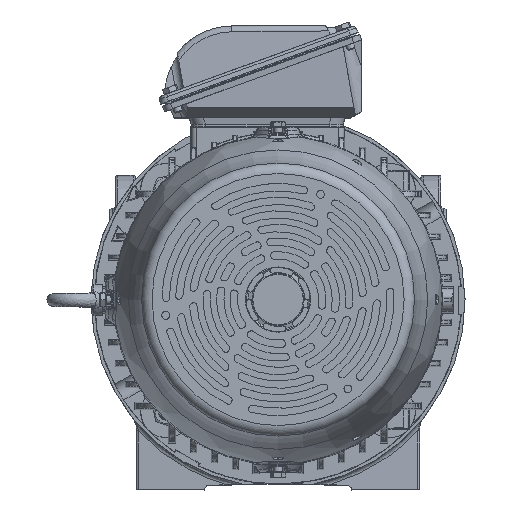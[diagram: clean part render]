
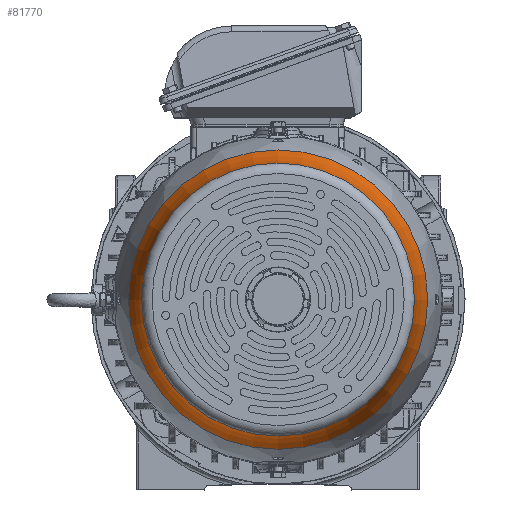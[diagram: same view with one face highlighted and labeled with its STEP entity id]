
A CAD part, top view. The second image highlights one B-rep face of the part: STEP entity #81770.
In plain terms, the highlighted toroidal (fillet/blend) face has major radius 308.616 mm and minor radius 180 mm.
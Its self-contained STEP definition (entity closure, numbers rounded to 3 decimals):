
#143=TOROIDAL_SURFACE('',#89071,308.617,180.);
#10907=FACE_OUTER_BOUND('',#15729,.T.);
#15729=EDGE_LOOP('',(#68542,#68543,#68544,#68545,#68546,#68547));
#19954=CIRCLE('',#89068,129.927);
#19955=CIRCLE('',#89069,129.927);
#19957=CIRCLE('',#89072,142.487);
#19958=CIRCLE('',#89073,142.487);
#19959=CIRCLE('',#89074,180.);
#36640=VERTEX_POINT('',#177621);
#36641=VERTEX_POINT('',#177622);
#36642=VERTEX_POINT('',#177627);
#36643=VERTEX_POINT('',#177628);
#47637=EDGE_CURVE('',#36640,#36641,#19954,.T.);
#47638=EDGE_CURVE('',#36641,#36640,#19955,.T.);
#47640=EDGE_CURVE('',#36642,#36643,#19957,.T.);
#47641=EDGE_CURVE('',#36643,#36642,#19958,.T.);
#47642=EDGE_CURVE('',#36643,#36641,#19959,.T.);
#68542=ORIENTED_EDGE('',*,*,#47640,.F.);
#68543=ORIENTED_EDGE('',*,*,#47641,.F.);
#68544=ORIENTED_EDGE('',*,*,#47642,.T.);
#68545=ORIENTED_EDGE('',*,*,#47638,.T.);
#68546=ORIENTED_EDGE('',*,*,#47637,.T.);
#68547=ORIENTED_EDGE('',*,*,#47642,.F.);
#81770=ADVANCED_FACE('',(#10907),#143,.F.);
#89068=AXIS2_PLACEMENT_3D('',#177623,#107031,#107032);
#89069=AXIS2_PLACEMENT_3D('',#177624,#107033,#107034);
#89071=AXIS2_PLACEMENT_3D('',#177626,#107037,#107038);
#89072=AXIS2_PLACEMENT_3D('',#177629,#107039,#107040);
#89073=AXIS2_PLACEMENT_3D('',#177630,#107041,#107042);
#89074=AXIS2_PLACEMENT_3D('',#177631,#107043,#107044);
#107031=DIRECTION('center_axis',(0.,0.,
-1.));
#107032=DIRECTION('ref_axis',(-1.,0.,0.));
#107033=DIRECTION('center_axis',(0.,0.,
-1.));
#107034=DIRECTION('ref_axis',(-1.,0.,0.));
#107037=DIRECTION('center_axis',(0.,0.,
-1.));
#107038=DIRECTION('ref_axis',(-1.,0.,0.));
#107039=DIRECTION('center_axis',(0.,0.,
-1.));
#107040=DIRECTION('ref_axis',(-1.,0.,0.));
#107041=DIRECTION('center_axis',(0.,0.,
-1.));
#107042=DIRECTION('ref_axis',(-1.,0.,0.));
#107043=DIRECTION('center_axis',(0.,1.,0.));
#107044=DIRECTION('ref_axis',(1.,0.,0.));
#177621=CARTESIAN_POINT('',(-129.927,0.,645.405));
#177622=CARTESIAN_POINT('',(129.927,0.,645.405));
#177623=CARTESIAN_POINT('Origin',(0.,0.,
645.405));
#177624=CARTESIAN_POINT('Origin',(0.,0.,
645.405));
#177626=CARTESIAN_POINT('Origin',(0.,0.,
667.087));
#177627=CARTESIAN_POINT('',(-142.487,0.,597.799));
#177628=CARTESIAN_POINT('',(142.487,0.,597.799));
#177629=CARTESIAN_POINT('Origin',(0.,0.,
597.799));
#177630=CARTESIAN_POINT('Origin',(0.,0.,
597.799));
#177631=CARTESIAN_POINT('Origin',(308.617,0.,
667.087));
